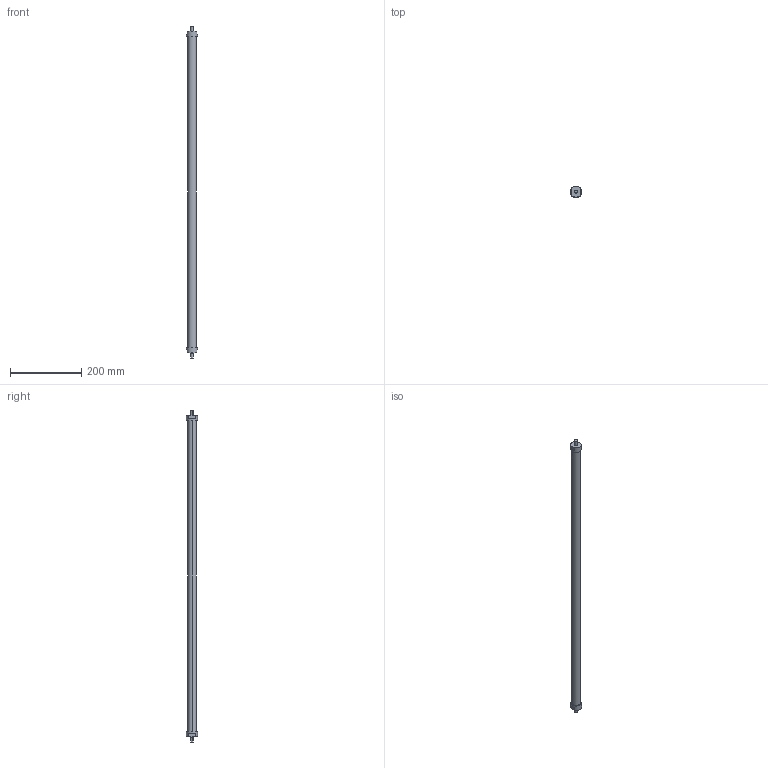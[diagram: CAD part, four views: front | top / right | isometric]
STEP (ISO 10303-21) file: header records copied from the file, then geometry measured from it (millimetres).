
FILE_DESCRIPTION(('STEP AP214'),'1');
FILE_NAME('ETT-R050N914.stp','2015-07-20T08:02:36',(' '),(' '),'Spatial InterOp 3D',' ',' ');
FILE_SCHEMA(('automotive_design'));
Length unit declared in the file: metre
Products named in the file (3): 1; 3; 2
Bounding box: 31 x 31 x 934 mm (x, y, z)
Volume: 452029.8 mm3; surface area: 74871.1 mm2
Topology: 1 solids, 7 shells, 30 faces, 78 edges, 60 vertices
Faces by surface type: plane 16, cylinder 14
Entity records: 1265 total; most frequent: DIRECTION 188, CARTESIAN_POINT 171, ORIENTED_EDGE 132, EDGE_CURVE 78, AXIS2_PLACEMENT_3D 77, VERTEX_POINT 60, CIRCLE 44, EDGE_LOOP 36
